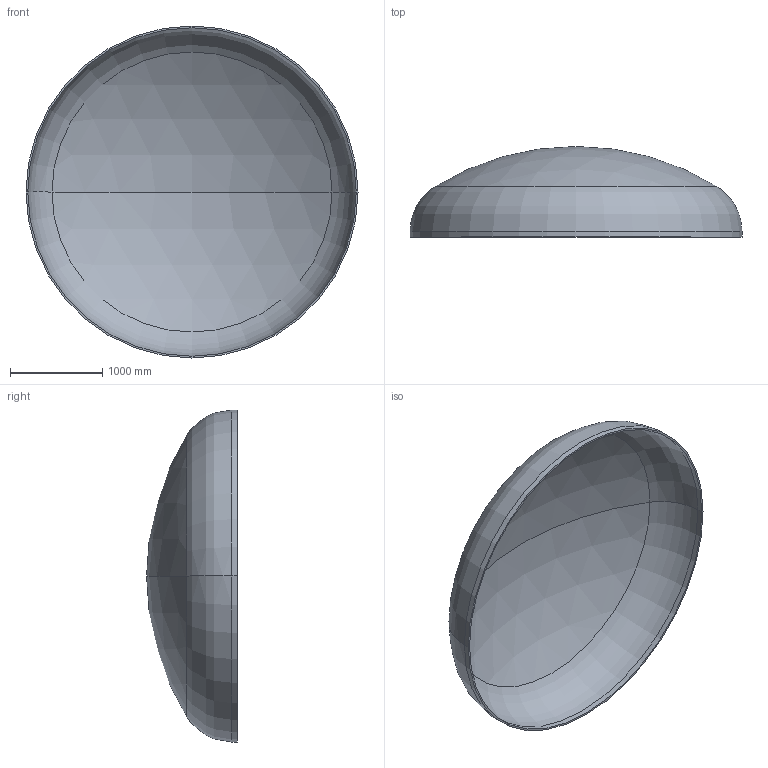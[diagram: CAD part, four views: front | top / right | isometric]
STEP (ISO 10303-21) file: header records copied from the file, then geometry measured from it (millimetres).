
FILE_DESCRIPTION (( 'STEP AP203' ), '1' );
FILE_NAME ('DIN 28013 Korbbogenform_-_Boden DIN 28013 - 3600 x 60 - I - s=19.step', '2016-07-01T20:10:30', ( '' ), ( '' ), 'SwSTEP 2.0', 'SolidWorks 2013', '' );
FILE_SCHEMA (( 'CONFIG_CONTROL_DESIGN' ));
Length unit declared in the file: millimetre
Products named in the file (1): DIN 28013 Korbbogenform_-_Boden DIN 28013 - 3600 x 60 - I - s=19
Bounding box: 3600 x 983.51 x 3600 mm (x, y, z)
Volume: 278878396.2 mm3; surface area: 29570116 mm2
Topology: 1 solids, 1 shells, 13 faces, 24 edges, 14 vertices
Faces by surface type: torus 4, cylinder 4, sphere 4, plane 1
Entity records: 407 total; most frequent: DIRECTION 72, CARTESIAN_POINT 52, ORIENTED_EDGE 48, AXIS2_PLACEMENT_3D 34, EDGE_CURVE 24, CIRCLE 20, VERTEX_POINT 14, EDGE_LOOP 14
